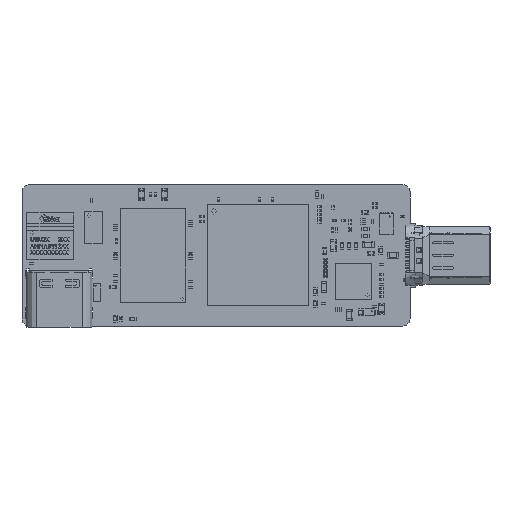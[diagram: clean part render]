
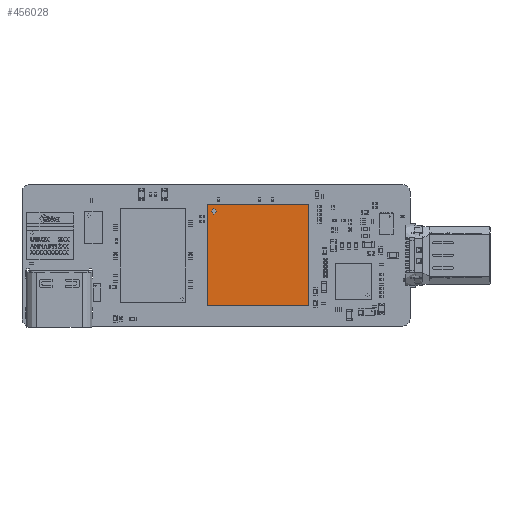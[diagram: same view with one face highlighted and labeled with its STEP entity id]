
A CAD part, top view. The second image highlights one B-rep face of the part: STEP entity #456028.
In plain terms, the highlighted planar face has unit normal (0, 0, 1).
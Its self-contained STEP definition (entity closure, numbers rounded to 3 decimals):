
#455839 = VERTEX_POINT('',#455840);
#455840 = CARTESIAN_POINT('',(-7.,7.,1.4));
#455847 = PLANE('',#455848);
#455848 = AXIS2_PLACEMENT_3D('',#455849,#455850,#455851);
#455849 = CARTESIAN_POINT('',(-7.,7.,0.4));
#455850 = DIRECTION('',(0.,-1.,0.));
#455851 = DIRECTION('',(0.,0.,1.));
#455859 = PLANE('',#455860);
#455860 = AXIS2_PLACEMENT_3D('',#455861,#455862,#455863);
#455861 = CARTESIAN_POINT('',(-7.,7.,0.4));
#455862 = DIRECTION('',(1.,0.,0.));
#455863 = DIRECTION('',(0.,0.,1.));
#455900 = VERTEX_POINT('',#455901);
#455901 = CARTESIAN_POINT('',(7.,7.,1.4));
#455915 = PLANE('',#455916);
#455916 = AXIS2_PLACEMENT_3D('',#455917,#455918,#455919);
#455917 = CARTESIAN_POINT('',(7.,7.,0.4));
#455918 = DIRECTION('',(1.,0.,0.));
#455919 = DIRECTION('',(0.,0.,1.));
#455927 = EDGE_CURVE('',#455839,#455900,#455928,.T.);
#455928 = SURFACE_CURVE('',#455929,(#455933,#455940),.PCURVE_S1.);
#455929 = LINE('',#455930,#455931);
#455930 = CARTESIAN_POINT('',(-7.,7.,1.4));
#455931 = VECTOR('',#455932,1.);
#455932 = DIRECTION('',(1.,0.,0.));
#455933 = PCURVE('',#455847,#455934);
#455934 = DEFINITIONAL_REPRESENTATION('',(#455935),#455939);
#455935 = LINE('',#455936,#455937);
#455936 = CARTESIAN_POINT('',(1.,0.));
#455937 = VECTOR('',#455938,1.);
#455938 = DIRECTION('',(0.,-1.));
#455939 = ( GEOMETRIC_REPRESENTATION_CONTEXT(2) 
PARAMETRIC_REPRESENTATION_CONTEXT() REPRESENTATION_CONTEXT('2D SPACE',''
  ) );
#455940 = PCURVE('',#455941,#455946);
#455941 = PLANE('',#455942);
#455942 = AXIS2_PLACEMENT_3D('',#455943,#455944,#455945);
#455943 = CARTESIAN_POINT('',(-7.,7.,1.4));
#455944 = DIRECTION('',(0.,0.,1.));
#455945 = DIRECTION('',(0.,-1.,0.));
#455946 = DEFINITIONAL_REPRESENTATION('',(#455947),#455951);
#455947 = LINE('',#455948,#455949);
#455948 = CARTESIAN_POINT('',(0.,0.));
#455949 = VECTOR('',#455950,1.);
#455950 = DIRECTION('',(0.,1.));
#455951 = ( GEOMETRIC_REPRESENTATION_CONTEXT(2) 
PARAMETRIC_REPRESENTATION_CONTEXT() REPRESENTATION_CONTEXT('2D SPACE',''
  ) );
#455980 = EDGE_CURVE('',#455839,#455981,#455983,.T.);
#455981 = VERTEX_POINT('',#455982);
#455982 = CARTESIAN_POINT('',(-7.,-7.,1.4));
#455983 = SURFACE_CURVE('',#455984,(#455988,#455995),.PCURVE_S1.);
#455984 = LINE('',#455985,#455986);
#455985 = CARTESIAN_POINT('',(-7.,7.,1.4));
#455986 = VECTOR('',#455987,1.);
#455987 = DIRECTION('',(0.,-1.,0.));
#455988 = PCURVE('',#455859,#455989);
#455989 = DEFINITIONAL_REPRESENTATION('',(#455990),#455994);
#455990 = LINE('',#455991,#455992);
#455991 = CARTESIAN_POINT('',(1.,0.));
#455992 = VECTOR('',#455993,1.);
#455993 = DIRECTION('',(0.,1.));
#455994 = ( GEOMETRIC_REPRESENTATION_CONTEXT(2) 
PARAMETRIC_REPRESENTATION_CONTEXT() REPRESENTATION_CONTEXT('2D SPACE',''
  ) );
#455995 = PCURVE('',#455941,#455996);
#455996 = DEFINITIONAL_REPRESENTATION('',(#455997),#456001);
#455997 = LINE('',#455998,#455999);
#455998 = CARTESIAN_POINT('',(0.,0.));
#455999 = VECTOR('',#456000,1.);
#456000 = DIRECTION('',(1.,0.));
#456001 = ( GEOMETRIC_REPRESENTATION_CONTEXT(2) 
PARAMETRIC_REPRESENTATION_CONTEXT() REPRESENTATION_CONTEXT('2D SPACE',''
  ) );
#456017 = PLANE('',#456018);
#456018 = AXIS2_PLACEMENT_3D('',#456019,#456020,#456021);
#456019 = CARTESIAN_POINT('',(-7.,-7.,0.4));
#456020 = DIRECTION('',(0.,-1.,0.));
#456021 = DIRECTION('',(0.,0.,1.));
#456028 = ADVANCED_FACE('',(#456029,#456077),#455941,.T.);
#456029 = FACE_BOUND('',#456030,.T.);
#456030 = EDGE_LOOP('',(#456031,#456032,#456033,#456056));
#456031 = ORIENTED_EDGE('',*,*,#455927,.F.);
#456032 = ORIENTED_EDGE('',*,*,#455980,.T.);
#456033 = ORIENTED_EDGE('',*,*,#456034,.T.);
#456034 = EDGE_CURVE('',#455981,#456035,#456037,.T.);
#456035 = VERTEX_POINT('',#456036);
#456036 = CARTESIAN_POINT('',(7.,-7.,1.4));
#456037 = SURFACE_CURVE('',#456038,(#456042,#456049),.PCURVE_S1.);
#456038 = LINE('',#456039,#456040);
#456039 = CARTESIAN_POINT('',(-7.,-7.,1.4));
#456040 = VECTOR('',#456041,1.);
#456041 = DIRECTION('',(1.,0.,0.));
#456042 = PCURVE('',#455941,#456043);
#456043 = DEFINITIONAL_REPRESENTATION('',(#456044),#456048);
#456044 = LINE('',#456045,#456046);
#456045 = CARTESIAN_POINT('',(14.,0.));
#456046 = VECTOR('',#456047,1.);
#456047 = DIRECTION('',(0.,1.));
#456048 = ( GEOMETRIC_REPRESENTATION_CONTEXT(2) 
PARAMETRIC_REPRESENTATION_CONTEXT() REPRESENTATION_CONTEXT('2D SPACE',''
  ) );
#456049 = PCURVE('',#456017,#456050);
#456050 = DEFINITIONAL_REPRESENTATION('',(#456051),#456055);
#456051 = LINE('',#456052,#456053);
#456052 = CARTESIAN_POINT('',(1.,0.));
#456053 = VECTOR('',#456054,1.);
#456054 = DIRECTION('',(0.,-1.));
#456055 = ( GEOMETRIC_REPRESENTATION_CONTEXT(2) 
PARAMETRIC_REPRESENTATION_CONTEXT() REPRESENTATION_CONTEXT('2D SPACE',''
  ) );
#456056 = ORIENTED_EDGE('',*,*,#456057,.F.);
#456057 = EDGE_CURVE('',#455900,#456035,#456058,.T.);
#456058 = SURFACE_CURVE('',#456059,(#456063,#456070),.PCURVE_S1.);
#456059 = LINE('',#456060,#456061);
#456060 = CARTESIAN_POINT('',(7.,7.,1.4));
#456061 = VECTOR('',#456062,1.);
#456062 = DIRECTION('',(0.,-1.,0.));
#456063 = PCURVE('',#455941,#456064);
#456064 = DEFINITIONAL_REPRESENTATION('',(#456065),#456069);
#456065 = LINE('',#456066,#456067);
#456066 = CARTESIAN_POINT('',(0.,14.));
#456067 = VECTOR('',#456068,1.);
#456068 = DIRECTION('',(1.,0.));
#456069 = ( GEOMETRIC_REPRESENTATION_CONTEXT(2) 
PARAMETRIC_REPRESENTATION_CONTEXT() REPRESENTATION_CONTEXT('2D SPACE',''
  ) );
#456070 = PCURVE('',#455915,#456071);
#456071 = DEFINITIONAL_REPRESENTATION('',(#456072),#456076);
#456072 = LINE('',#456073,#456074);
#456073 = CARTESIAN_POINT('',(1.,0.));
#456074 = VECTOR('',#456075,1.);
#456075 = DIRECTION('',(0.,1.));
#456076 = ( GEOMETRIC_REPRESENTATION_CONTEXT(2) 
PARAMETRIC_REPRESENTATION_CONTEXT() REPRESENTATION_CONTEXT('2D SPACE',''
  ) );
#456077 = FACE_BOUND('',#456078,.T.);
#456078 = EDGE_LOOP('',(#456079));
#456079 = ORIENTED_EDGE('',*,*,#456080,.T.);
#456080 = EDGE_CURVE('',#456081,#456081,#456083,.T.);
#456081 = VERTEX_POINT('',#456082);
#456082 = CARTESIAN_POINT('',(-6.08,5.68,1.4));
#456083 = SURFACE_CURVE('',#456084,(#456089,#456100),.PCURVE_S1.);
#456084 = CIRCLE('',#456085,0.4);
#456085 = AXIS2_PLACEMENT_3D('',#456086,#456087,#456088);
#456086 = CARTESIAN_POINT('',(-6.08,6.08,1.4));
#456087 = DIRECTION('',(-0.,0.,-1.));
#456088 = DIRECTION('',(0.,-1.,0.));
#456089 = PCURVE('',#455941,#456090);
#456090 = DEFINITIONAL_REPRESENTATION('',(#456091),#456099);
#456091 = ( BOUNDED_CURVE() B_SPLINE_CURVE(2,(#456092,#456093,#456094,
    #456095,#456096,#456097,#456098),.UNSPECIFIED.,.T.,.F.) 
B_SPLINE_CURVE_WITH_KNOTS((1,2,2,2,2,1),(-2.094,0.,
    2.094,4.189,6.283,8.378),
.UNSPECIFIED.) CURVE() GEOMETRIC_REPRESENTATION_ITEM() 
RATIONAL_B_SPLINE_CURVE((1.,0.5,1.,0.5,1.,0.5,1.)) REPRESENTATION_ITEM(
  '') );
#456092 = CARTESIAN_POINT('',(1.32,0.92));
#456093 = CARTESIAN_POINT('',(1.32,0.227));
#456094 = CARTESIAN_POINT('',(0.72,0.574));
#456095 = CARTESIAN_POINT('',(0.12,0.92));
#456096 = CARTESIAN_POINT('',(0.72,1.266));
#456097 = CARTESIAN_POINT('',(1.32,1.613));
#456098 = CARTESIAN_POINT('',(1.32,0.92));
#456099 = ( GEOMETRIC_REPRESENTATION_CONTEXT(2) 
PARAMETRIC_REPRESENTATION_CONTEXT() REPRESENTATION_CONTEXT('2D SPACE',''
  ) );
#456100 = PCURVE('',#456101,#456106);
#456101 = CYLINDRICAL_SURFACE('',#456102,0.4);
#456102 = AXIS2_PLACEMENT_3D('',#456103,#456104,#456105);
#456103 = CARTESIAN_POINT('',(-6.08,6.08,1.41));
#456104 = DIRECTION('',(0.,0.,-1.));
#456105 = DIRECTION('',(0.,-1.,-0.));
#456106 = DEFINITIONAL_REPRESENTATION('',(#456107),#456111);
#456107 = LINE('',#456108,#456109);
#456108 = CARTESIAN_POINT('',(0.,0.01));
#456109 = VECTOR('',#456110,1.);
#456110 = DIRECTION('',(1.,0.));
#456111 = ( GEOMETRIC_REPRESENTATION_CONTEXT(2) 
PARAMETRIC_REPRESENTATION_CONTEXT() REPRESENTATION_CONTEXT('2D SPACE',''
  ) );
